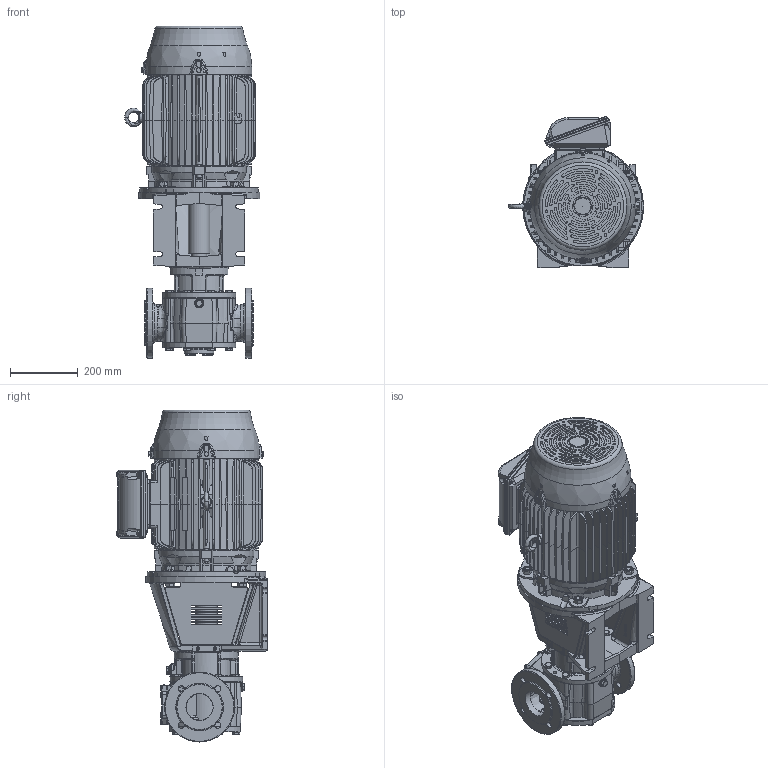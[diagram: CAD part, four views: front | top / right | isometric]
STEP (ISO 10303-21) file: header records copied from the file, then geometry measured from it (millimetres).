
FILE_DESCRIPTION(/* description */ (''),/* implementation_level */ '2;1');
FILE_NAME(/* name */ 'C:\V\JPP\Designs\GEAR PUMPS\PRODUCT ENGINEERING\EUROPE\TG BLOC\TG BLOC_58-80_R3_O_NRV-_160M-STEP.stp',/* time_stamp */ '2021-03-19T11:18:44+01:00',/* author */ ('A77THR'),/* organization */ (''),/* preprocessor_version */ 'ST-DEVELOPER v18.1',/* originating_system */ 'Autodesk Inventor 2020',/* authorisation */ '');
FILE_SCHEMA (('AUTOMOTIVE_DESIGN { 1 0 10303 214 3 1 1 }'));
Length unit declared in the file: millimetre
Products named in the file (1): TG BLOC_58-80_R3_O_NRV-_160M
Bounding box: 397.99 x 444.6 x 978 mm (x, y, z)
Volume: 48727171.9 mm3; surface area: 2471423.6 mm2
Topology: 1 solids, 1 shells, 4551 faces, 11895 edges, 7540 vertices
Faces by surface type: plane 1930, cylinder 996, bspline 863, cone 616, torus 107, sphere 39
Full cylindrical faces by diameter (mm): 4 x1, 4.5 x8, 4.917 x8, 5 x4, 6.647 x1, 7 x4, 7.323 x14, 7.5 x3, 8 x23, 9 x14, 9.4 x1, 10 x8, 10.106 x7, 10.2 x2, 11.053 x4, 11.4 x14, 11.445 x2, 11.6 x7, 12 x4, 12.5 x3, 13 x5, 13.157 x2, 13.2 x2, 14 x8, 15.011 x2, 16 x1, 17.2 x20, 18 x10, 19 x2, 20.955 x1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
Entity records: 180819 total; most frequent: CARTESIAN_POINT 71111, ORIENTED_EDGE 23618, DIRECTION 20201, EDGE_CURVE 11809, AXIS2_PLACEMENT_3D 7743, VERTEX_POINT 7532, EDGE_LOOP 4961, LINE 4715
